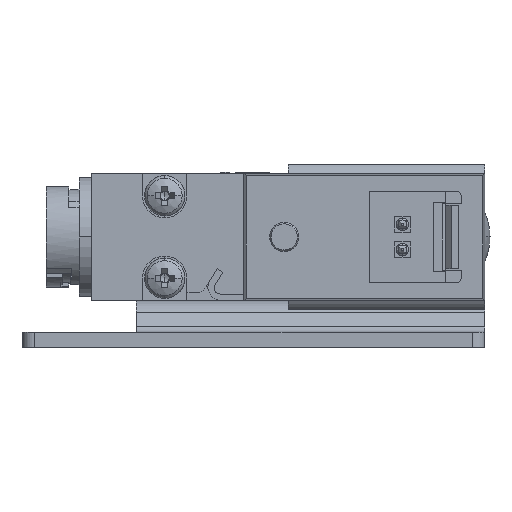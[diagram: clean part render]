
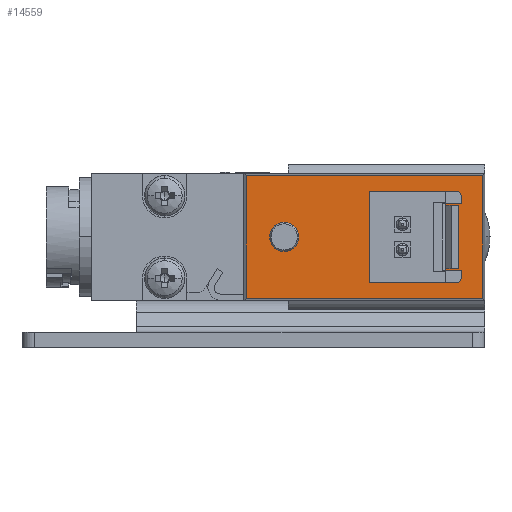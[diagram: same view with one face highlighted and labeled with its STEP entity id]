
A CAD part, left-side view. The second image highlights one B-rep face of the part: STEP entity #14559.
In plain terms, the highlighted planar face has unit normal (-1, 0, 0) as drawn and (0, 0, 1) by its records, which use the part's own axes.
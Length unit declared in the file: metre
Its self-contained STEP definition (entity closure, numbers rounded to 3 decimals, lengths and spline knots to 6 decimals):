
#131 = EDGE_CURVE ( 'NONE', #14110, #14168, #14205, .T. ) ;
#177 = ORIENTED_EDGE ( 'NONE', *, *, #13502, .F. ) ;
#503 = DIRECTION ( 'NONE',  ( 0., 0., -1. ) ) ;
#940 = ORIENTED_EDGE ( 'NONE', *, *, #2762, .F. ) ;
#1698 = EDGE_CURVE ( 'NONE', #14745, #4929, #9705, .T. ) ;
#1841 = CARTESIAN_POINT ( 'NONE',  ( 0., 0.016825, 0.005 ) ) ;
#2413 = CARTESIAN_POINT ( 'NONE',  ( 0., 0.016825, 0.005 ) ) ;
#2527 = CARTESIAN_POINT ( 'NONE',  ( 0.0005, 0.0065, 0.005 ) ) ;
#2575 = ORIENTED_EDGE ( 'NONE', *, *, #16243, .F. ) ;
#2762 = EDGE_CURVE ( 'NONE', #6107, #13886, #11826, .T. ) ;
#2852 = VERTEX_POINT ( 'NONE', #13446 ) ;
#2930 = VECTOR ( 'NONE', #17093, 1. ) ;
#3183 = CARTESIAN_POINT ( 'NONE',  ( 0.004825, 0.001175, 0.005 ) ) ;
#3224 = DIRECTION ( 'NONE',  ( -1., 0., 0. ) ) ;
#3433 = CARTESIAN_POINT ( 'NONE',  ( 0.0015, 0.0075, 0.005 ) ) ;
#3772 = DIRECTION ( 'NONE',  ( -1., 0., 0. ) ) ;
#3978 = ORIENTED_EDGE ( 'NONE', *, *, #10267, .F. ) ;
#4343 = CARTESIAN_POINT ( 'NONE',  ( -0.0015, 0.0085, 0.005 ) ) ;
#4903 = EDGE_LOOP ( 'NONE', ( #13990, #15636 ) ) ;
#4929 = VERTEX_POINT ( 'NONE', #10436 ) ;
#5020 = AXIS2_PLACEMENT_3D ( 'NONE', #1841, #11205, #3224 ) ;
#5207 = DIRECTION ( 'NONE',  ( 1., 0., 0. ) ) ;
#5844 = DIRECTION ( 'NONE',  ( -1., 0., 0. ) ) ;
#6013 = FACE_BOUND ( 'NONE', #12253, .T. ) ;
#6046 = LINE ( 'NONE', #8925, #2930 ) ;
#6107 = VERTEX_POINT ( 'NONE', #8441 ) ;
#6432 = FACE_BOUND ( 'NONE', #4903, .T. ) ;
#6922 = VERTEX_POINT ( 'NONE', #10761 ) ;
#7219 = CARTESIAN_POINT ( 'NONE',  ( 0., 0.001175, 0.005 ) ) ;
#7322 = ORIENTED_EDGE ( 'NONE', *, *, #131, .F. ) ;
#7382 = ORIENTED_EDGE ( 'NONE', *, *, #7653, .T. ) ;
#7560 = CARTESIAN_POINT ( 'NONE',  ( -0.00115, 0.016825, 0.005 ) ) ;
#7653 = EDGE_CURVE ( 'NONE', #6922, #10458, #7864, .T. ) ;
#7864 = CIRCLE ( 'NONE', #5020, 0.00115 ) ;
#7896 = CARTESIAN_POINT ( 'NONE',  ( 0.0015, 0.0075, 0.005 ) ) ;
#8230 = VECTOR ( 'NONE', #5207, 1. ) ;
#8299 = CARTESIAN_POINT ( 'NONE',  ( 0.004825, 0.019825, 0.005 ) ) ;
#8441 = CARTESIAN_POINT ( 'NONE',  ( -0.004825, 0.019825, 0.005 ) ) ;
#8463 = PLANE ( 'NONE',  #14253 ) ;
#8772 = EDGE_CURVE ( 'NONE', #4929, #14745, #16922, .T. ) ;
#8925 = CARTESIAN_POINT ( 'NONE',  ( 0.004825, 0.0105, 0.005 ) ) ;
#9266 = VECTOR ( 'NONE', #5844, 1. ) ;
#9550 = FACE_BOUND ( 'NONE', #16524, .T. ) ;
#9705 =( BOUNDED_CURVE ( )  B_SPLINE_CURVE ( 3, ( #10065, #10469, #10537, #10680 ),
 .UNSPECIFIED., .F., .F. ) 
 B_SPLINE_CURVE_WITH_KNOTS ( ( 4, 4 ),
 ( 0., 0.001563 ),
 .UNSPECIFIED. ) 
 CURVE ( )  GEOMETRIC_REPRESENTATION_ITEM ( )  RATIONAL_B_SPLINE_CURVE ( ( 0.957, 0.319, 0.319, 0.957 ) ) 
 REPRESENTATION_ITEM ( '' )  );
#9879 = DIRECTION ( 'NONE',  ( -1., 0., 0. ) ) ;
#9996 = FACE_OUTER_BOUND ( 'NONE', #13992, .T. ) ;
#10065 = CARTESIAN_POINT ( 'NONE',  ( -0.0015, 0.0075, 0.005 ) ) ;
#10267 = EDGE_CURVE ( 'NONE', #13650, #2852, #16957, .T. ) ;
#10436 = CARTESIAN_POINT ( 'NONE',  ( -0.0005, 0.0075, 0.005 ) ) ;
#10458 = VERTEX_POINT ( 'NONE', #7560 ) ;
#10469 = CARTESIAN_POINT ( 'NONE',  ( -0.0015, 0.0065, 0.005 ) ) ;
#10537 = CARTESIAN_POINT ( 'NONE',  ( -0.0005, 0.0065, 0.005 ) ) ;
#10563 = CARTESIAN_POINT ( 'NONE',  ( 0.004825, 0.001175, 0.005 ) ) ;
#10680 = CARTESIAN_POINT ( 'NONE',  ( -0.0005, 0.0075, 0.005 ) ) ;
#10761 = CARTESIAN_POINT ( 'NONE',  ( 0.00115, 0.016825, 0.005 ) ) ;
#10995 = CARTESIAN_POINT ( 'NONE',  ( -0.0005, 0.0085, 0.005 ) ) ;
#11205 = DIRECTION ( 'NONE',  ( 0., 0., -1. ) ) ;
#11483 = LINE ( 'NONE', #14246, #15122 ) ;
#11608 = CARTESIAN_POINT ( 'NONE',  ( 0.0005, 0.0075, 0.005 ) ) ;
#11786 = DIRECTION ( 'NONE',  ( 0., 0., -1. ) ) ;
#11826 = LINE ( 'NONE', #14662, #8230 ) ;
#11846 = AXIS2_PLACEMENT_3D ( 'NONE', #2413, #11786, #3772 ) ;
#11899 = CARTESIAN_POINT ( 'NONE',  ( 0.0005, 0.0075, 0.005 ) ) ;
#12253 = EDGE_LOOP ( 'NONE', ( #7322, #2575 ) ) ;
#12747 = CARTESIAN_POINT ( 'NONE',  ( 0.0015, 0.0075, 0.005 ) ) ;
#12785 = CARTESIAN_POINT ( 'NONE',  ( 0.0005, 0.0075, 0.005 ) ) ;
#13446 = CARTESIAN_POINT ( 'NONE',  ( -0.004825, 0.001175, 0.005 ) ) ;
#13502 = EDGE_CURVE ( 'NONE', #13886, #13650, #6046, .T. ) ;
#13650 = VERTEX_POINT ( 'NONE', #10563 ) ;
#13712 = CARTESIAN_POINT ( 'NONE',  ( 0.0005, 0.0085, 0.005 ) ) ;
#13757 = CARTESIAN_POINT ( 'NONE',  ( -0.0015, 0.0075, 0.005 ) ) ;
#13886 = VERTEX_POINT ( 'NONE', #8299 ) ;
#13990 = ORIENTED_EDGE ( 'NONE', *, *, #1698, .F. ) ;
#13992 = EDGE_LOOP ( 'NONE', ( #940, #17361, #3978, #177 ) ) ;
#14073 =( BOUNDED_CURVE ( )  B_SPLINE_CURVE ( 3, ( #11899, #2527, #16000, #7896 ),
 .UNSPECIFIED., .F., .F. ) 
 B_SPLINE_CURVE_WITH_KNOTS ( ( 4, 4 ),
 ( 0., 0.001563 ),
 .UNSPECIFIED. ) 
 CURVE ( )  GEOMETRIC_REPRESENTATION_ITEM ( )  RATIONAL_B_SPLINE_CURVE ( ( 0.957, 0.319, 0.319, 0.957 ) ) 
 REPRESENTATION_ITEM ( '' )  );
#14110 = VERTEX_POINT ( 'NONE', #3433 ) ;
#14128 = EDGE_CURVE ( 'NONE', #2852, #6107, #11483, .T. ) ;
#14168 = VERTEX_POINT ( 'NONE', #11608 ) ;
#14205 =( BOUNDED_CURVE ( )  B_SPLINE_CURVE ( 3, ( #12747, #16981, #13712, #12785 ),
 .UNSPECIFIED., .F., .F. ) 
 B_SPLINE_CURVE_WITH_KNOTS ( ( 4, 4 ),
 ( 0., 0.001563 ),
 .UNSPECIFIED. ) 
 CURVE ( )  GEOMETRIC_REPRESENTATION_ITEM ( )  RATIONAL_B_SPLINE_CURVE ( ( 0.957, 0.319, 0.319, 0.957 ) ) 
 REPRESENTATION_ITEM ( '' )  );
#14235 = EDGE_CURVE ( 'NONE', #10458, #6922, #17473, .T. ) ;
#14246 = CARTESIAN_POINT ( 'NONE',  ( -0.004825, 0.0105, 0.005 ) ) ;
#14253 = AXIS2_PLACEMENT_3D ( 'NONE', #3183, #503, #9879 ) ;
#14559 = ADVANCED_FACE ( 'NONE', ( #9550, #6013, #6432, #9996 ), #8463, .F. ) ;
#14662 = CARTESIAN_POINT ( 'NONE',  ( 0., 0.019825, 0.005 ) ) ;
#14745 = VERTEX_POINT ( 'NONE', #17026 ) ;
#15122 = VECTOR ( 'NONE', #16986, 1. ) ;
#15636 = ORIENTED_EDGE ( 'NONE', *, *, #8772, .F. ) ;
#16000 = CARTESIAN_POINT ( 'NONE',  ( 0.0015, 0.0065, 0.005 ) ) ;
#16016 = ORIENTED_EDGE ( 'NONE', *, *, #14235, .T. ) ;
#16243 = EDGE_CURVE ( 'NONE', #14168, #14110, #14073, .T. ) ;
#16415 = CARTESIAN_POINT ( 'NONE',  ( -0.0005, 0.0075, 0.005 ) ) ;
#16524 = EDGE_LOOP ( 'NONE', ( #16016, #7382 ) ) ;
#16922 =( BOUNDED_CURVE ( )  B_SPLINE_CURVE ( 3, ( #16415, #10995, #4343, #13757 ),
 .UNSPECIFIED., .F., .F. ) 
 B_SPLINE_CURVE_WITH_KNOTS ( ( 4, 4 ),
 ( 0., 0.001563 ),
 .UNSPECIFIED. ) 
 CURVE ( )  GEOMETRIC_REPRESENTATION_ITEM ( )  RATIONAL_B_SPLINE_CURVE ( ( 0.957, 0.319, 0.319, 0.957 ) ) 
 REPRESENTATION_ITEM ( '' )  );
#16957 = LINE ( 'NONE', #7219, #9266 ) ;
#16981 = CARTESIAN_POINT ( 'NONE',  ( 0.0015, 0.0085, 0.005 ) ) ;
#16986 = DIRECTION ( 'NONE',  ( 0., 1., 0. ) ) ;
#17026 = CARTESIAN_POINT ( 'NONE',  ( -0.0015, 0.0075, 0.005 ) ) ;
#17093 = DIRECTION ( 'NONE',  ( 0., -1., 0. ) ) ;
#17361 = ORIENTED_EDGE ( 'NONE', *, *, #14128, .F. ) ;
#17473 = CIRCLE ( 'NONE', #11846, 0.00115 ) ;
